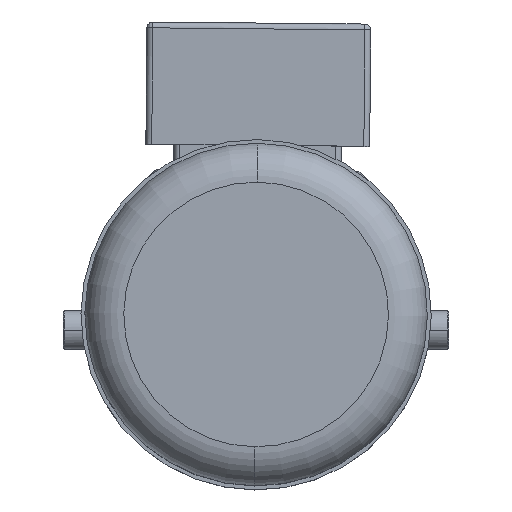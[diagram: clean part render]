
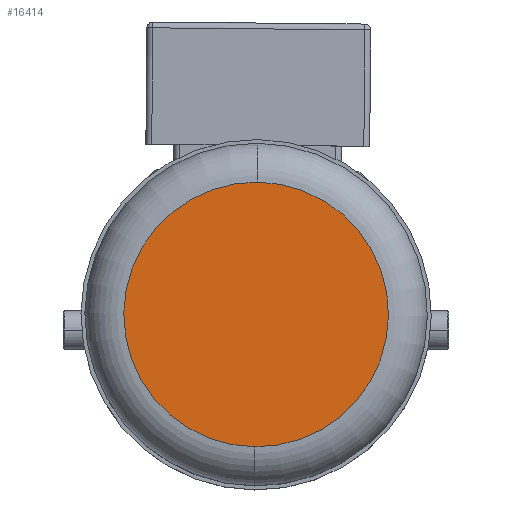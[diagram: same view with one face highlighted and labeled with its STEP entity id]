
A CAD part, top view. The second image highlights one B-rep face of the part: STEP entity #16414.
In plain terms, the highlighted planar face has unit normal (0, 0, 1) as drawn and (0, 0, -1) by its records, which use the part's own axes.
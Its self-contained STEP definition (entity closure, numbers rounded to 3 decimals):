
#11403 = DIRECTION ( 'NONE',  ( 0., 0., -1. ) ) ;
#11502 = EDGE_CURVE ( 'NONE', #82630, #47714, #48102, .T. ) ;
#13196 = ORIENTED_EDGE ( 'NONE', *, *, #63718, .T. ) ;
#16414 = ADVANCED_FACE ( 'NONE', ( #61040 ), #56176, .T. ) ;
#27989 = CARTESIAN_POINT ( 'NONE',  ( 0., 0., -330. ) ) ;
#33191 = CARTESIAN_POINT ( 'NONE',  ( 0., -68., -330. ) ) ;
#33267 = AXIS2_PLACEMENT_3D ( 'NONE', #88902, #40181, #97063 ) ;
#36173 = DIRECTION ( 'NONE',  ( 0., 1., 0. ) ) ;
#40181 = DIRECTION ( 'NONE',  ( 0., 0., -1. ) ) ;
#47714 = VERTEX_POINT ( 'NONE', #62090 ) ;
#48102 = CIRCLE ( 'NONE', #104212, 68. ) ;
#55330 = CIRCLE ( 'NONE', #97795, 68. ) ;
#56176 = PLANE ( 'NONE',  #33267 ) ;
#60157 = CARTESIAN_POINT ( 'NONE',  ( 0., 0., -330. ) ) ;
#61040 = FACE_OUTER_BOUND ( 'NONE', #100336, .T. ) ;
#62090 = CARTESIAN_POINT ( 'NONE',  ( 0., 68., -330. ) ) ;
#63718 = EDGE_CURVE ( 'NONE', #47714, #82630, #55330, .T. ) ;
#68304 = DIRECTION ( 'NONE',  ( 0., 1., 0. ) ) ;
#70552 = ORIENTED_EDGE ( 'NONE', *, *, #11502, .T. ) ;
#82630 = VERTEX_POINT ( 'NONE', #33191 ) ;
#84886 = DIRECTION ( 'NONE',  ( 0., 0., -1. ) ) ;
#88902 = CARTESIAN_POINT ( 'NONE',  ( 0., 0., -330. ) ) ;
#97063 = DIRECTION ( 'NONE',  ( 0., 1., 0. ) ) ;
#97795 = AXIS2_PLACEMENT_3D ( 'NONE', #27989, #84886, #36173 ) ;
#100336 = EDGE_LOOP ( 'NONE', ( #13196, #70552 ) ) ;
#104212 = AXIS2_PLACEMENT_3D ( 'NONE', #60157, #11403, #68304 ) ;
